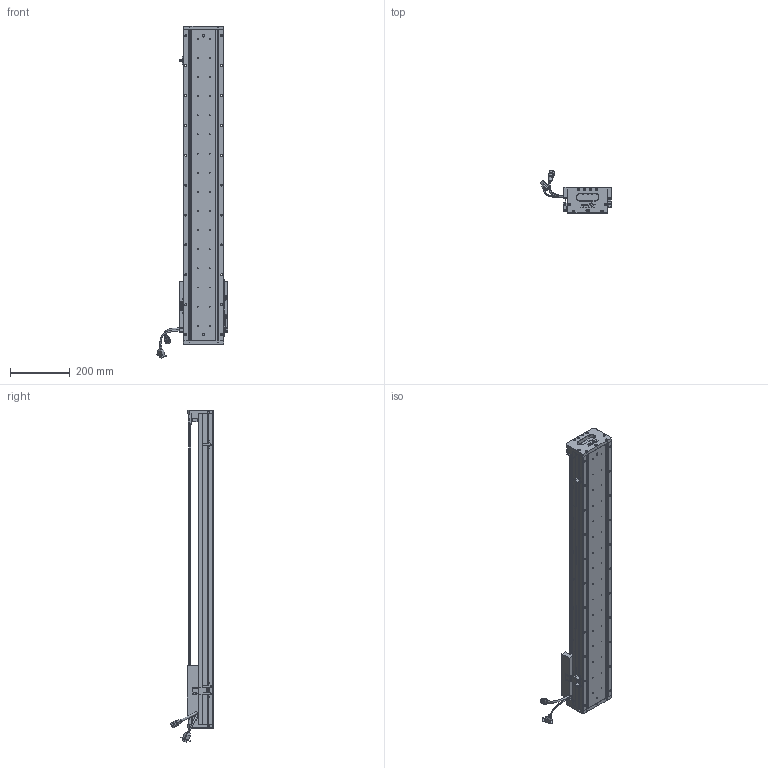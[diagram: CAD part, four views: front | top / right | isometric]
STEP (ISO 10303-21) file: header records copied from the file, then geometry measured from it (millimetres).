
FILE_DESCRIPTION (( 'STEP AP203' ), '1' );
FILE_NAME ('Z2-RY140D-1-L500-B-K.SLDASM_0800.step', '2021-05-17T07:45:25', ( '盈信电脑' ), ( '东莞市道滘镇水果街19号' ), 'SwSTEP 2.0', 'SolidWorks 2016', '' );
FILE_SCHEMA (( 'CONFIG_CONTROL_DESIGN' ));
Length unit declared in the file: millimetre
Products named in the file (36): LABEL; Z2-RY140D-1-L500-B-K.SLDASM_0800; PBU_SHEET; COVER-Part-1; SCREW-M1.6-1; Z2-RY140-L500直线电机模组底座_0800; 140蚥薯蝶輸; 080黍杅芛假蚾釱21遴; Z-140詩湍傷裔啣; 榋妏寠巭燃_暯_M2_2; SCALE-Part-2; Z-RY140感应器672光电感应片; HARNESS; SCREW-M1.6-2; LABEL-Part-1; SHIELDPLATE; SCREW-M1.7; SCREW-M1.6-3; SCREW-M1.6; HARNESS-Part-2; SCALE; HARNESS-Part-1; Z2-RY140圉猾敕臏賑輸(21遴); SCREW-M1.7-1; SCALE-Part-1; 140雄赽晤鎢ん堤盄; Z-RY140詩湍奻揤裔; 140-Z-臏賑輸盄裔(21遴); Z-RY140詩湍狟揤裔; 覜茼ん672; PSLH080_PSLF2; SEAL; COVER; HOLDER0; Z2-RY140-L500詩湍100mm遵_0800; SEAL-Part-1
Assembly tree (41 placements, depth 4):
  Z2-RY140D-1-L500-B-K.SLDASM_0800
    Z2-RY140-L500直线电机模组底座_0800
    Z-RY140感应器672光电感应片
    Z2-RY140圉猾敕臏賑輸(21遴)
    覜茼ん672  x3
    Z2-RY140-L500詩湍100mm遵_0800
    PSLH080_PSLF2
      SCALE
        SCALE-Part-1
        SCALE-Part-2
      HARNESS
        HARNESS-Part-1
        HARNESS-Part-2
      LABEL
        LABEL-Part-1
      COVER
        COVER-Part-1
      SEAL
        SEAL-Part-1
      榋妏寠巭燃_暯_M2_2
      SHIELDPLATE
      SCREW-M1.7
      SCREW-M1.7-1
      PBU_SHEET
      SCREW-M1.6
      SCREW-M1.6-1
      SCREW-M1.6-2
      SCREW-M1.6-3
      HOLDER0
    080黍杅芛假蚾釱21遴
    140-Z-臏賑輸盄裔(21遴)
    Z-140詩湍傷裔啣  x2
    Z-RY140詩湍狟揤裔  x2
    Z-RY140詩湍奻揤裔  x2
    140蚥薯蝶輸  x2
    140雄赽晤鎢ん堤盄
Bounding box: 239.84 x 143.77 x 1110.88 mm (x, y, z)
Volume: 3949351.1 mm3; surface area: 1038850.7 mm2
Topology: 36 solids, 36 shells, 3006 faces, 7950 edges, 5038 vertices
Faces by surface type: cylinder 1432, plane 1156, cone 286, torus 79, bspline 53
Entity records: 88930 total; most frequent: CARTESIAN_POINT 22890, ORIENTED_EDGE 13040, DIRECTION 12794, EDGE_CURVE 6520, AXIS2_PLACEMENT_3D 4710, VERTEX_POINT 4206, VECTOR 3374, LINE 3374
